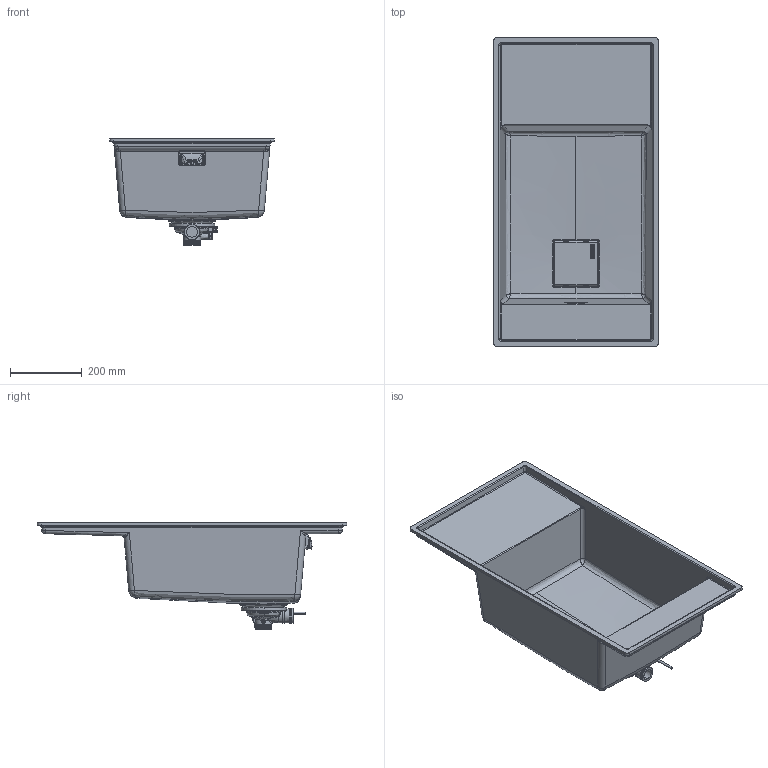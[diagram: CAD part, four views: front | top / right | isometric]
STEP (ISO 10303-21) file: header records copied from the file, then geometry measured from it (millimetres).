
FILE_DESCRIPTION(/* description */ (''),/* implementation_level */ '2;1');
FILE_NAME(/* name */ '3D001_Sinks_Fresno_FSG-211-111-86',/* time_stamp */ '2024-06-26T10:31:53+02:00',/* author */ (''),/* organization */ (''),/* preprocessor_version */ 'ST-DEVELOPER v19.2',/* originating_system */ 'Rhino 8.8',/* authorisation */ '');
FILE_SCHEMA (('CONFIG_CONTROL_DESIGN'));
Length unit declared in the file: millimetre
Products named in the file (2): Document; Block 07
Bounding box: 458 x 860 x 295.16 mm (x, y, z)
Volume: 5699796.4 mm3; surface area: 1574752.8 mm2
Topology: 15 solids, 18 shells, 2332 faces, 6284 edges, 4038 vertices
Faces by surface type: plane 1438, cylinder 478, bspline 416
Entity records: 96420 total; most frequent: CARTESIAN_POINT 47930, ORIENTED_EDGE 12478, EDGE_CURVE 6264, DIRECTION 5144, B_SPLINE_CURVE_WITH_KNOTS 4320, VERTEX_POINT 4038, AXIS2_PLACEMENT_3D 3530, EDGE_LOOP 2456
